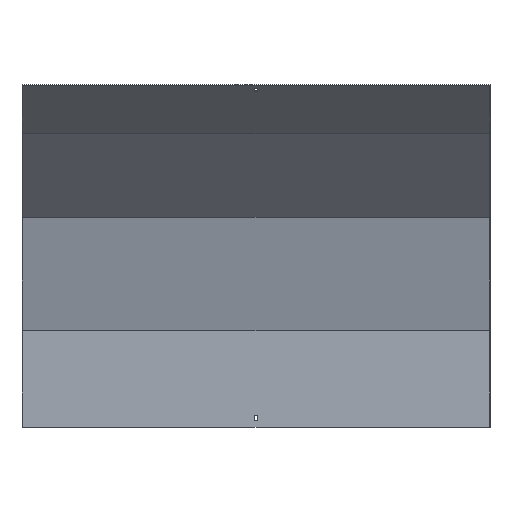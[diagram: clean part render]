
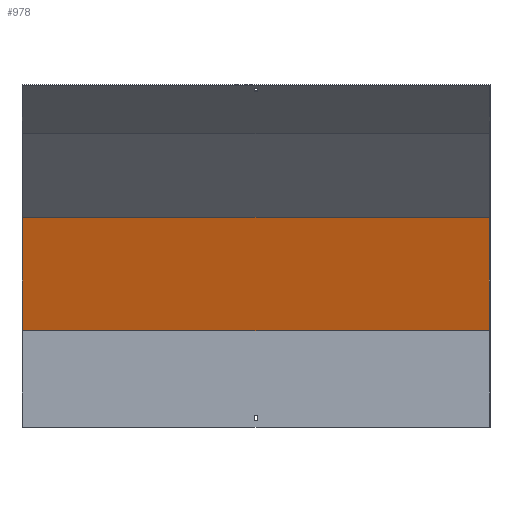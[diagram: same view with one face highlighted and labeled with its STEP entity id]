
A CAD part, front view. The second image highlights one B-rep face of the part: STEP entity #978.
In plain terms, the highlighted planar face has unit normal (0, -0.966, -0.259).
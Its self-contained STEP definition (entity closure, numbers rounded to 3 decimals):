
#38 = DIRECTION ( 'NONE',  ( 0., -0.259, 0.966 ) ) ;
#40 = LINE ( 'NONE', #808, #539 ) ;
#75 = VERTEX_POINT ( 'NONE', #581 ) ;
#93 = CARTESIAN_POINT ( 'NONE',  ( 400., 18.5, 165.436 ) ) ;
#118 = CARTESIAN_POINT ( 'NONE',  ( 400., 58.62, 15.707 ) ) ;
#176 = DIRECTION ( 'NONE',  ( 0., 0.259, -0.966 ) ) ;
#219 = VERTEX_POINT ( 'NONE', #773 ) ;
#230 = AXIS2_PLACEMENT_3D ( 'NONE', #334, #390, #176 ) ;
#239 = PLANE ( 'NONE',  #230 ) ;
#253 = EDGE_CURVE ( 'NONE', #685, #75, #787, .T. ) ;
#274 = ORIENTED_EDGE ( 'NONE', *, *, #795, .T. ) ;
#292 = ORIENTED_EDGE ( 'NONE', *, *, #836, .F. ) ;
#334 = CARTESIAN_POINT ( 'NONE',  ( 401.5, 17.87, 167.788 ) ) ;
#340 = DIRECTION ( 'NONE',  ( -1., 0., 0. ) ) ;
#387 = EDGE_CURVE ( 'NONE', #914, #219, #582, .T. ) ;
#390 = DIRECTION ( 'NONE',  ( 0., -0.966, -0.259 ) ) ;
#435 = DIRECTION ( 'NONE',  ( -1., 0., 0. ) ) ;
#485 = CARTESIAN_POINT ( 'NONE',  ( -400., 58.62, 15.707 ) ) ;
#501 = EDGE_LOOP ( 'NONE', ( #659, #292, #750, #274 ) ) ;
#539 = VECTOR ( 'NONE', #435, 1000. ) ;
#581 = CARTESIAN_POINT ( 'NONE',  ( -400., -33.883, 360.932 ) ) ;
#582 = LINE ( 'NONE', #118, #894 ) ;
#611 = CARTESIAN_POINT ( 'NONE',  ( -400., 18.5, 165.436 ) ) ;
#659 = ORIENTED_EDGE ( 'NONE', *, *, #253, .F. ) ;
#685 = VERTEX_POINT ( 'NONE', #611 ) ;
#750 = ORIENTED_EDGE ( 'NONE', *, *, #387, .T. ) ;
#773 = CARTESIAN_POINT ( 'NONE',  ( 400., -33.883, 360.932 ) ) ;
#787 = LINE ( 'NONE', #485, #873 ) ;
#795 = EDGE_CURVE ( 'NONE', #219, #75, #40, .T. ) ;
#796 = LINE ( 'NONE', #814, #941 ) ;
#808 = CARTESIAN_POINT ( 'NONE',  ( 401.5, -33.883, 360.932 ) ) ;
#814 = CARTESIAN_POINT ( 'NONE',  ( 401.5, 18.5, 165.436 ) ) ;
#836 = EDGE_CURVE ( 'NONE', #914, #685, #796, .T. ) ;
#873 = VECTOR ( 'NONE', #38, 1000. ) ;
#894 = VECTOR ( 'NONE', #957, 1000. ) ;
#914 = VERTEX_POINT ( 'NONE', #93 ) ;
#926 = FACE_OUTER_BOUND ( 'NONE', #501, .T. ) ;
#941 = VECTOR ( 'NONE', #340, 1000. ) ;
#957 = DIRECTION ( 'NONE',  ( 0., -0.259, 0.966 ) ) ;
#978 = ADVANCED_FACE ( 'NONE', ( #926 ), #239, .T. ) ;
